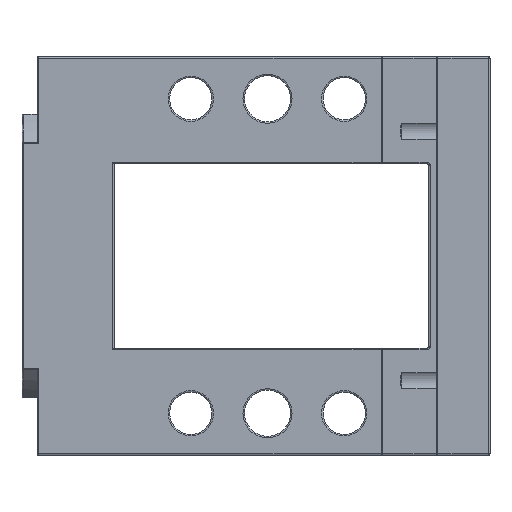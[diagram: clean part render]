
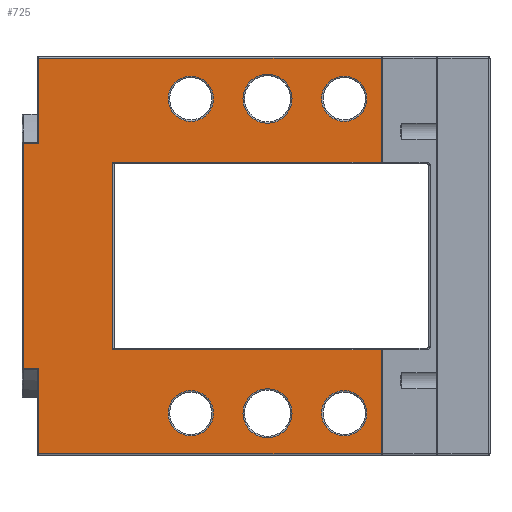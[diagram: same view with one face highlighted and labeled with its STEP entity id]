
A CAD part, front view. The second image highlights one B-rep face of the part: STEP entity #725.
In plain terms, the highlighted planar face has unit normal (0, -1, 0).
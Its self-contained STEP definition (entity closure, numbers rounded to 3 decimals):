
#526=CIRCLE('',#4734,3.2);
#528=CIRCLE('',#4737,3.2);
#530=CIRCLE('',#4740,2.95);
#532=CIRCLE('',#4743,2.95);
#534=CIRCLE('',#4746,2.95);
#536=CIRCLE('',#4749,2.95);
#725=ADVANCED_FACE('',(#1751,#1752,#1753,#1754,#1755,#1756,#1757),#950,
 .F.);
#950=PLANE('',#4865);
#1104=LINE('',#7009,#1371);
#1105=LINE('',#7012,#1372);
#1106=LINE('',#7014,#1373);
#1107=LINE('',#7016,#1374);
#1108=LINE('',#7018,#1375);
#1109=LINE('',#7020,#1376);
#1110=LINE('',#7022,#1377);
#1111=LINE('',#7024,#1378);
#1112=LINE('',#7026,#1379);
#1113=LINE('',#7028,#1380);
#1114=LINE('',#7030,#1381);
#1115=LINE('',#7032,#1382);
#1371=VECTOR('',#5457,1.);
#1372=VECTOR('',#5458,1.);
#1373=VECTOR('',#5459,1.);
#1374=VECTOR('',#5460,1.);
#1375=VECTOR('',#5461,1.);
#1376=VECTOR('',#5462,1.);
#1377=VECTOR('',#5463,1.);
#1378=VECTOR('',#5464,1.);
#1379=VECTOR('',#5465,1.);
#1380=VECTOR('',#5466,1.);
#1381=VECTOR('',#5467,1.);
#1382=VECTOR('',#5468,1.);
#1751=FACE_BOUND('',#1923,.T.);
#1752=FACE_BOUND('',#1924,.T.);
#1753=FACE_BOUND('',#1925,.T.);
#1754=FACE_BOUND('',#1926,.T.);
#1755=FACE_BOUND('',#1927,.T.);
#1756=FACE_BOUND('',#1928,.T.);
#1757=FACE_BOUND('',#1929,.T.);
#1923=EDGE_LOOP('',(#2434));
#1924=EDGE_LOOP('',(#2435));
#1925=EDGE_LOOP('',(#2436));
#1926=EDGE_LOOP('',(#2437));
#1927=EDGE_LOOP('',(#2438));
#1928=EDGE_LOOP('',(#2439));
#1929=EDGE_LOOP('',(#2440,#2441,#2442,#2443,#2444,#2445,#2446,#2447,#2448,
#2449,#2450,#2451));
#2434=ORIENTED_EDGE('',*,*,#3959,.T.);
#2435=ORIENTED_EDGE('',*,*,#3957,.T.);
#2436=ORIENTED_EDGE('',*,*,#3955,.T.);
#2437=ORIENTED_EDGE('',*,*,#3953,.T.);
#2438=ORIENTED_EDGE('',*,*,#3951,.T.);
#2439=ORIENTED_EDGE('',*,*,#3949,.T.);
#2440=ORIENTED_EDGE('',*,*,#4076,.T.);
#2441=ORIENTED_EDGE('',*,*,#4077,.T.);
#2442=ORIENTED_EDGE('',*,*,#4078,.T.);
#2443=ORIENTED_EDGE('',*,*,#4079,.T.);
#2444=ORIENTED_EDGE('',*,*,#4080,.T.);
#2445=ORIENTED_EDGE('',*,*,#4081,.T.);
#2446=ORIENTED_EDGE('',*,*,#4082,.T.);
#2447=ORIENTED_EDGE('',*,*,#4083,.T.);
#2448=ORIENTED_EDGE('',*,*,#4084,.T.);
#2449=ORIENTED_EDGE('',*,*,#4085,.T.);
#2450=ORIENTED_EDGE('',*,*,#4086,.T.);
#2451=ORIENTED_EDGE('',*,*,#4087,.T.);
#3524=VERTEX_POINT('',#6696);
#3526=VERTEX_POINT('',#6701);
#3528=VERTEX_POINT('',#6706);
#3530=VERTEX_POINT('',#6711);
#3532=VERTEX_POINT('',#6716);
#3534=VERTEX_POINT('',#6721);
#3651=VERTEX_POINT('',#7010);
#3652=VERTEX_POINT('',#7011);
#3653=VERTEX_POINT('',#7013);
#3654=VERTEX_POINT('',#7015);
#3655=VERTEX_POINT('',#7017);
#3656=VERTEX_POINT('',#7019);
#3657=VERTEX_POINT('',#7021);
#3658=VERTEX_POINT('',#7023);
#3659=VERTEX_POINT('',#7025);
#3660=VERTEX_POINT('',#7027);
#3661=VERTEX_POINT('',#7029);
#3662=VERTEX_POINT('',#7031);
#3949=EDGE_CURVE('',#3524,#3524,#526,.T.);
#3951=EDGE_CURVE('',#3526,#3526,#528,.T.);
#3953=EDGE_CURVE('',#3528,#3528,#530,.T.);
#3955=EDGE_CURVE('',#3530,#3530,#532,.T.);
#3957=EDGE_CURVE('',#3532,#3532,#534,.T.);
#3959=EDGE_CURVE('',#3534,#3534,#536,.T.);
#4076=EDGE_CURVE('',#3651,#3652,#1104,.T.);
#4077=EDGE_CURVE('',#3652,#3653,#1105,.T.);
#4078=EDGE_CURVE('',#3653,#3654,#1106,.T.);
#4079=EDGE_CURVE('',#3654,#3655,#1107,.T.);
#4080=EDGE_CURVE('',#3655,#3656,#1108,.T.);
#4081=EDGE_CURVE('',#3656,#3657,#1109,.T.);
#4082=EDGE_CURVE('',#3657,#3658,#1110,.T.);
#4083=EDGE_CURVE('',#3658,#3659,#1111,.T.);
#4084=EDGE_CURVE('',#3659,#3660,#1112,.T.);
#4085=EDGE_CURVE('',#3660,#3661,#1113,.T.);
#4086=EDGE_CURVE('',#3661,#3662,#1114,.T.);
#4087=EDGE_CURVE('',#3662,#3651,#1115,.T.);
#4734=AXIS2_PLACEMENT_3D('',#6695,#5139,#5140);
#4737=AXIS2_PLACEMENT_3D('',#6700,#5145,#5146);
#4740=AXIS2_PLACEMENT_3D('',#6705,#5151,#5152);
#4743=AXIS2_PLACEMENT_3D('',#6710,#5157,#5158);
#4746=AXIS2_PLACEMENT_3D('',#6715,#5163,#5164);
#4749=AXIS2_PLACEMENT_3D('',#6720,#5169,#5170);
#4865=AXIS2_PLACEMENT_3D('',#7033,#5469,#5470);
#5139=DIRECTION('',(0.,1.,0.));
#5140=DIRECTION('',(0.,0.,1.));
#5145=DIRECTION('',(0.,1.,0.));
#5146=DIRECTION('',(0.,0.,1.));
#5151=DIRECTION('',(0.,1.,0.));
#5152=DIRECTION('',(0.,0.,1.));
#5157=DIRECTION('',(0.,1.,0.));
#5158=DIRECTION('',(0.,0.,1.));
#5163=DIRECTION('',(0.,1.,0.));
#5164=DIRECTION('',(0.,0.,1.));
#5169=DIRECTION('',(0.,1.,0.));
#5170=DIRECTION('',(0.,0.,1.));
#5457=DIRECTION('',(-1.,0.,0.));
#5458=DIRECTION('',(0.,0.,1.));
#5459=DIRECTION('',(1.,0.,0.));
#5460=DIRECTION('',(0.,0.,1.));
#5461=DIRECTION('',(-1.,0.,0.));
#5462=DIRECTION('',(0.,0.,-1.));
#5463=DIRECTION('',(-1.,0.,0.));
#5464=DIRECTION('',(0.,0.,-1.));
#5465=DIRECTION('',(1.,0.,0.));
#5466=DIRECTION('',(0.,0.,-1.));
#5467=DIRECTION('',(1.,0.,0.));
#5468=DIRECTION('',(0.,0.,1.));
#5469=DIRECTION('',(0.,1.,0.));
#5470=DIRECTION('',(0.,0.,-1.));
#6695=CARTESIAN_POINT('',(-29.,-17.,20.5));
#6696=CARTESIAN_POINT('',(-29.,-17.,23.7));
#6700=CARTESIAN_POINT('',(-29.,-17.,-20.5));
#6701=CARTESIAN_POINT('',(-29.,-17.,-17.3));
#6705=CARTESIAN_POINT('',(-19.,-17.,-20.5));
#6706=CARTESIAN_POINT('',(-19.,-17.,-17.55));
#6710=CARTESIAN_POINT('',(-39.,-17.,-20.5));
#6711=CARTESIAN_POINT('',(-39.,-17.,-17.55));
#6715=CARTESIAN_POINT('',(-19.,-17.,20.5));
#6716=CARTESIAN_POINT('',(-19.,-17.,23.45));
#6720=CARTESIAN_POINT('',(-39.,-17.,20.5));
#6721=CARTESIAN_POINT('',(-39.,-17.,23.45));
#7009=CARTESIAN_POINT('',(-49.,-17.,-12.2));
#7010=CARTESIAN_POINT('',(-14.2,-17.,-12.2));
#7011=CARTESIAN_POINT('',(-49.2,-17.,-12.2));
#7012=CARTESIAN_POINT('',(-49.2,-17.,12.));
#7013=CARTESIAN_POINT('',(-49.2,-17.,12.2));
#7014=CARTESIAN_POINT('',(-49.,-17.,12.2));
#7015=CARTESIAN_POINT('',(-14.2,-17.,12.2));
#7016=CARTESIAN_POINT('',(-14.2,-17.,-12.));
#7017=CARTESIAN_POINT('',(-14.2,-17.,25.8));
#7018=CARTESIAN_POINT('',(-49.,-17.,25.8));
#7019=CARTESIAN_POINT('',(-58.8,-17.,25.8));
#7020=CARTESIAN_POINT('',(-58.8,-17.,-12.));
#7021=CARTESIAN_POINT('',(-58.8,-17.,14.665));
#7022=CARTESIAN_POINT('',(-49.,-17.,14.665));
#7023=CARTESIAN_POINT('',(-60.8,-17.,14.665));
#7024=CARTESIAN_POINT('',(-60.8,-17.,-14.739));
#7025=CARTESIAN_POINT('',(-60.8,-17.,-14.665));
#7026=CARTESIAN_POINT('',(-49.,-17.,-14.665));
#7027=CARTESIAN_POINT('',(-58.8,-17.,-14.665));
#7028=CARTESIAN_POINT('',(-58.8,-17.,-12.));
#7029=CARTESIAN_POINT('',(-58.8,-17.,-25.8));
#7030=CARTESIAN_POINT('',(-49.,-17.,-25.8));
#7031=CARTESIAN_POINT('',(-14.2,-17.,-25.8));
#7032=CARTESIAN_POINT('',(-14.2,-17.,-12.));
#7033=CARTESIAN_POINT('',(-49.,-17.,-12.));
